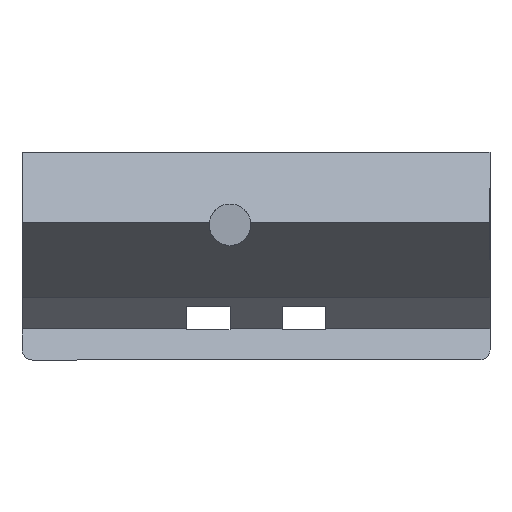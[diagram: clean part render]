
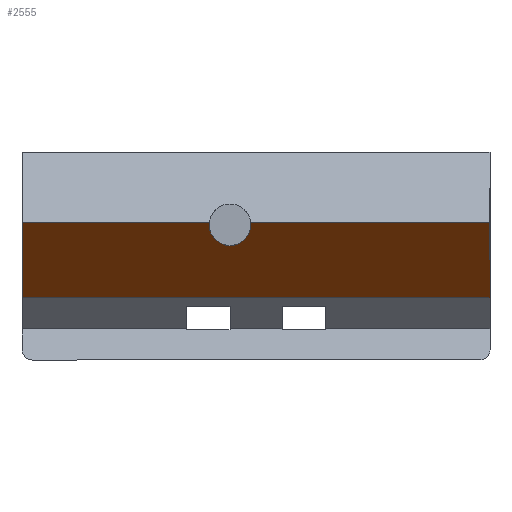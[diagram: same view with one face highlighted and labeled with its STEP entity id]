
A CAD part, left-side view. The second image highlights one B-rep face of the part: STEP entity #2555.
In plain terms, the highlighted planar face has unit normal (-0.633, 0, -0.774).
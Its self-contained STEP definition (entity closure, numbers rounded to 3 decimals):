
#44 = PLANE('',#45);
#45 = AXIS2_PLACEMENT_3D('',#46,#47,#48);
#46 = CARTESIAN_POINT('',(0.,0.,9.931));
#47 = DIRECTION('',(-0.,-1.,0.));
#48 = DIRECTION('',(0.,0.,-1.));
#158 = PLANE('',#159);
#159 = AXIS2_PLACEMENT_3D('',#160,#161,#162);
#160 = CARTESIAN_POINT('',(0.,-45.,9.931));
#161 = DIRECTION('',(-0.,-1.,0.));
#162 = DIRECTION('',(0.,0.,-1.));
#184 = PLANE('',#185);
#185 = AXIS2_PLACEMENT_3D('',#186,#187,#188);
#186 = CARTESIAN_POINT('',(-7.681,0.,23.61));
#187 = DIRECTION('',(0.774,0.,-0.633));
#188 = DIRECTION('',(-0.633,0.,-0.774));
#564 = VERTEX_POINT('',#565);
#565 = CARTESIAN_POINT('',(-16.173,0.,13.216));
#586 = EDGE_CURVE('',#564,#587,#589,.T.);
#587 = VERTEX_POINT('',#588);
#588 = CARTESIAN_POINT('',(-7.34,0.,6.));
#589 = SURFACE_CURVE('',#590,(#594,#601),.PCURVE_S1.);
#590 = LINE('',#591,#592);
#591 = CARTESIAN_POINT('',(-16.173,0.,13.216));
#592 = VECTOR('',#593,1.);
#593 = DIRECTION('',(0.774,0.,-0.633));
#594 = PCURVE('',#44,#595);
#595 = DEFINITIONAL_REPRESENTATION('',(#596),#600);
#596 = LINE('',#597,#598);
#597 = CARTESIAN_POINT('',(-3.285,-16.173));
#598 = VECTOR('',#599,1.);
#599 = DIRECTION('',(0.633,0.774));
#600 = ( GEOMETRIC_REPRESENTATION_CONTEXT(2) 
PARAMETRIC_REPRESENTATION_CONTEXT() REPRESENTATION_CONTEXT('2D SPACE',''
  ) );
#601 = PCURVE('',#602,#607);
#602 = PLANE('',#603);
#603 = AXIS2_PLACEMENT_3D('',#604,#605,#606);
#604 = CARTESIAN_POINT('',(-16.173,0.,13.216));
#605 = DIRECTION('',(0.633,0.,0.774));
#606 = DIRECTION('',(0.774,0.,-0.633));
#607 = DEFINITIONAL_REPRESENTATION('',(#608),#612);
#608 = LINE('',#609,#610);
#609 = CARTESIAN_POINT('',(0.,0.));
#610 = VECTOR('',#611,1.);
#611 = DIRECTION('',(1.,0.));
#612 = ( GEOMETRIC_REPRESENTATION_CONTEXT(2) 
PARAMETRIC_REPRESENTATION_CONTEXT() REPRESENTATION_CONTEXT('2D SPACE',''
  ) );
#630 = PLANE('',#631);
#631 = AXIS2_PLACEMENT_3D('',#632,#633,#634);
#632 = CARTESIAN_POINT('',(-9.,0.,6.));
#633 = DIRECTION('',(0.,0.,1.));
#634 = DIRECTION('',(1.,0.,0.));
#820 = VERTEX_POINT('',#821);
#821 = CARTESIAN_POINT('',(-16.173,-45.,13.216));
#842 = EDGE_CURVE('',#843,#820,#845,.T.);
#843 = VERTEX_POINT('',#844);
#844 = CARTESIAN_POINT('',(-16.173,-21.988,
    13.216));
#845 = SURFACE_CURVE('',#846,(#850,#857),.PCURVE_S1.);
#846 = LINE('',#847,#848);
#847 = CARTESIAN_POINT('',(-16.173,0.,13.216));
#848 = VECTOR('',#849,1.);
#849 = DIRECTION('',(0.,-1.,0.));
#850 = PCURVE('',#184,#851);
#851 = DEFINITIONAL_REPRESENTATION('',(#852),#856);
#852 = LINE('',#853,#854);
#853 = CARTESIAN_POINT('',(13.422,0.));
#854 = VECTOR('',#855,1.);
#855 = DIRECTION('',(0.,-1.));
#856 = ( GEOMETRIC_REPRESENTATION_CONTEXT(2) 
PARAMETRIC_REPRESENTATION_CONTEXT() REPRESENTATION_CONTEXT('2D SPACE',''
  ) );
#857 = PCURVE('',#602,#858);
#858 = DEFINITIONAL_REPRESENTATION('',(#859),#863);
#859 = LINE('',#860,#861);
#860 = CARTESIAN_POINT('',(0.,0.));
#861 = VECTOR('',#862,1.);
#862 = DIRECTION('',(0.,-1.));
#863 = ( GEOMETRIC_REPRESENTATION_CONTEXT(2) 
PARAMETRIC_REPRESENTATION_CONTEXT() REPRESENTATION_CONTEXT('2D SPACE',''
  ) );
#866 = VERTEX_POINT('',#867);
#867 = CARTESIAN_POINT('',(-16.173,-18.012,
    13.216));
#882 = CYLINDRICAL_SURFACE('',#883,2.);
#883 = AXIS2_PLACEMENT_3D('',#884,#885,#886);
#884 = CARTESIAN_POINT('',(-25.,-20.,13.));
#885 = DIRECTION('',(-1.,0.,0.));
#886 = DIRECTION('',(0.,0.,-1.));
#902 = EDGE_CURVE('',#564,#866,#903,.T.);
#903 = SURFACE_CURVE('',#904,(#908,#915),.PCURVE_S1.);
#904 = LINE('',#905,#906);
#905 = CARTESIAN_POINT('',(-16.173,0.,13.216));
#906 = VECTOR('',#907,1.);
#907 = DIRECTION('',(0.,-1.,0.));
#908 = PCURVE('',#184,#909);
#909 = DEFINITIONAL_REPRESENTATION('',(#910),#914);
#910 = LINE('',#911,#912);
#911 = CARTESIAN_POINT('',(13.422,0.));
#912 = VECTOR('',#913,1.);
#913 = DIRECTION('',(0.,-1.));
#914 = ( GEOMETRIC_REPRESENTATION_CONTEXT(2) 
PARAMETRIC_REPRESENTATION_CONTEXT() REPRESENTATION_CONTEXT('2D SPACE',''
  ) );
#915 = PCURVE('',#602,#916);
#916 = DEFINITIONAL_REPRESENTATION('',(#917),#921);
#917 = LINE('',#918,#919);
#918 = CARTESIAN_POINT('',(0.,0.));
#919 = VECTOR('',#920,1.);
#920 = DIRECTION('',(0.,-1.));
#921 = ( GEOMETRIC_REPRESENTATION_CONTEXT(2) 
PARAMETRIC_REPRESENTATION_CONTEXT() REPRESENTATION_CONTEXT('2D SPACE',''
  ) );
#1210 = EDGE_CURVE('',#1211,#820,#1213,.T.);
#1211 = VERTEX_POINT('',#1212);
#1212 = CARTESIAN_POINT('',(-7.34,-45.,6.));
#1213 = SURFACE_CURVE('',#1214,(#1218,#1225),.PCURVE_S1.);
#1214 = LINE('',#1215,#1216);
#1215 = CARTESIAN_POINT('',(-10.518,-45.,8.597));
#1216 = VECTOR('',#1217,1.);
#1217 = DIRECTION('',(-0.774,0.,0.633));
#1218 = PCURVE('',#158,#1219);
#1219 = DEFINITIONAL_REPRESENTATION('',(#1220),#1224);
#1220 = LINE('',#1221,#1222);
#1221 = CARTESIAN_POINT('',(1.335,-10.518));
#1222 = VECTOR('',#1223,1.);
#1223 = DIRECTION('',(-0.633,-0.774));
#1224 = ( GEOMETRIC_REPRESENTATION_CONTEXT(2) 
PARAMETRIC_REPRESENTATION_CONTEXT() REPRESENTATION_CONTEXT('2D SPACE',''
  ) );
#1225 = PCURVE('',#602,#1226);
#1226 = DEFINITIONAL_REPRESENTATION('',(#1227),#1231);
#1227 = LINE('',#1228,#1229);
#1228 = CARTESIAN_POINT('',(7.301,-45.));
#1229 = VECTOR('',#1230,1.);
#1230 = DIRECTION('',(-1.,0.));
#1231 = ( GEOMETRIC_REPRESENTATION_CONTEXT(2) 
PARAMETRIC_REPRESENTATION_CONTEXT() REPRESENTATION_CONTEXT('2D SPACE',''
  ) );
#2533 = EDGE_CURVE('',#1211,#587,#2534,.T.);
#2534 = SURFACE_CURVE('',#2535,(#2539,#2546),.PCURVE_S1.);
#2535 = LINE('',#2536,#2537);
#2536 = CARTESIAN_POINT('',(-7.34,0.,6.));
#2537 = VECTOR('',#2538,1.);
#2538 = DIRECTION('',(0.,1.,0.));
#2539 = PCURVE('',#630,#2540);
#2540 = DEFINITIONAL_REPRESENTATION('',(#2541),#2545);
#2541 = LINE('',#2542,#2543);
#2542 = CARTESIAN_POINT('',(1.66,0.));
#2543 = VECTOR('',#2544,1.);
#2544 = DIRECTION('',(0.,1.));
#2545 = ( GEOMETRIC_REPRESENTATION_CONTEXT(2) 
PARAMETRIC_REPRESENTATION_CONTEXT() REPRESENTATION_CONTEXT('2D SPACE',''
  ) );
#2546 = PCURVE('',#602,#2547);
#2547 = DEFINITIONAL_REPRESENTATION('',(#2548),#2552);
#2548 = LINE('',#2549,#2550);
#2549 = CARTESIAN_POINT('',(11.406,0.));
#2550 = VECTOR('',#2551,1.);
#2551 = DIRECTION('',(0.,1.));
#2552 = ( GEOMETRIC_REPRESENTATION_CONTEXT(2) 
PARAMETRIC_REPRESENTATION_CONTEXT() REPRESENTATION_CONTEXT('2D SPACE',''
  ) );
#2555 = ADVANCED_FACE('',(#2556),#602,.F.);
#2556 = FACE_BOUND('',#2557,.F.);
#2557 = EDGE_LOOP('',(#2558,#2559,#2560,#2591,#2620,#2621,#2622));
#2558 = ORIENTED_EDGE('',*,*,#586,.F.);
#2559 = ORIENTED_EDGE('',*,*,#902,.T.);
#2560 = ORIENTED_EDGE('',*,*,#2561,.F.);
#2561 = EDGE_CURVE('',#2562,#866,#2564,.T.);
#2562 = VERTEX_POINT('',#2563);
#2563 = CARTESIAN_POINT('',(-13.46,-20.,11.));
#2564 = SURFACE_CURVE('',#2565,(#2570,#2577),.PCURVE_S1.);
#2565 = ELLIPSE('',#2566,3.161,2.);
#2566 = AXIS2_PLACEMENT_3D('',#2567,#2568,#2569);
#2567 = CARTESIAN_POINT('',(-15.909,-20.,13.));
#2568 = DIRECTION('',(0.633,0.,0.774));
#2569 = DIRECTION('',(-0.774,0.,0.633
    ));
#2570 = PCURVE('',#602,#2571);
#2571 = DEFINITIONAL_REPRESENTATION('',(#2572),#2576);
#2572 = ELLIPSE('',#2573,3.161,2.);
#2573 = AXIS2_PLACEMENT_2D('',#2574,#2575);
#2574 = CARTESIAN_POINT('',(0.341,-20.));
#2575 = DIRECTION('',(-1.,0.));
#2576 = ( GEOMETRIC_REPRESENTATION_CONTEXT(2) 
PARAMETRIC_REPRESENTATION_CONTEXT() REPRESENTATION_CONTEXT('2D SPACE',''
  ) );
#2577 = PCURVE('',#882,#2578);
#2578 = DEFINITIONAL_REPRESENTATION('',(#2579),#2590);
#2579 = B_SPLINE_CURVE_WITH_KNOTS('',9,(#2580,#2581,#2582,#2583,#2584,
    #2585,#2586,#2587,#2588,#2589),.UNSPECIFIED.,.F.,.F.,(10,10),(
    3.142,5.589),.PIECEWISE_BEZIER_KNOTS.);
#2580 = CARTESIAN_POINT('',(6.283,-11.54));
#2581 = CARTESIAN_POINT('',(6.011,-11.54));
#2582 = CARTESIAN_POINT('',(5.739,-11.336));
#2583 = CARTESIAN_POINT('',(5.467,-10.929));
#2584 = CARTESIAN_POINT('',(5.196,-10.347));
#2585 = CARTESIAN_POINT('',(4.924,-9.648));
#2586 = CARTESIAN_POINT('',(4.652,-8.912));
#2587 = CARTESIAN_POINT('',(4.38,-8.218));
#2588 = CARTESIAN_POINT('',(4.108,-7.636));
#2589 = CARTESIAN_POINT('',(3.836,-7.21));
#2590 = ( GEOMETRIC_REPRESENTATION_CONTEXT(2) 
PARAMETRIC_REPRESENTATION_CONTEXT() REPRESENTATION_CONTEXT('2D SPACE',''
  ) );
#2591 = ORIENTED_EDGE('',*,*,#2592,.F.);
#2592 = EDGE_CURVE('',#843,#2562,#2593,.T.);
#2593 = SURFACE_CURVE('',#2594,(#2599,#2606),.PCURVE_S1.);
#2594 = ELLIPSE('',#2595,3.161,2.);
#2595 = AXIS2_PLACEMENT_3D('',#2596,#2597,#2598);
#2596 = CARTESIAN_POINT('',(-15.909,-20.,13.));
#2597 = DIRECTION('',(0.633,0.,0.774));
#2598 = DIRECTION('',(-0.774,0.,0.633
    ));
#2599 = PCURVE('',#602,#2600);
#2600 = DEFINITIONAL_REPRESENTATION('',(#2601),#2605);
#2601 = ELLIPSE('',#2602,3.161,2.);
#2602 = AXIS2_PLACEMENT_2D('',#2603,#2604);
#2603 = CARTESIAN_POINT('',(0.341,-20.));
#2604 = DIRECTION('',(-1.,0.));
#2605 = ( GEOMETRIC_REPRESENTATION_CONTEXT(2) 
PARAMETRIC_REPRESENTATION_CONTEXT() REPRESENTATION_CONTEXT('2D SPACE',''
  ) );
#2606 = PCURVE('',#882,#2607);
#2607 = DEFINITIONAL_REPRESENTATION('',(#2608),#2619);
#2608 = B_SPLINE_CURVE_WITH_KNOTS('',9,(#2609,#2610,#2611,#2612,#2613,
    #2614,#2615,#2616,#2617,#2618),.UNSPECIFIED.,.F.,.F.,(10,10),(
    0.694,3.142),.PIECEWISE_BEZIER_KNOTS.);
#2609 = CARTESIAN_POINT('',(2.447,-7.21));
#2610 = CARTESIAN_POINT('',(2.175,-7.636));
#2611 = CARTESIAN_POINT('',(1.903,-8.218));
#2612 = CARTESIAN_POINT('',(1.632,-8.912));
#2613 = CARTESIAN_POINT('',(1.36,-9.648));
#2614 = CARTESIAN_POINT('',(1.088,-10.347));
#2615 = CARTESIAN_POINT('',(0.816,-10.929));
#2616 = CARTESIAN_POINT('',(0.544,-11.336));
#2617 = CARTESIAN_POINT('',(0.272,-11.54));
#2618 = CARTESIAN_POINT('',(0.,-11.54));
#2619 = ( GEOMETRIC_REPRESENTATION_CONTEXT(2) 
PARAMETRIC_REPRESENTATION_CONTEXT() REPRESENTATION_CONTEXT('2D SPACE',''
  ) );
#2620 = ORIENTED_EDGE('',*,*,#842,.T.);
#2621 = ORIENTED_EDGE('',*,*,#1210,.F.);
#2622 = ORIENTED_EDGE('',*,*,#2533,.T.);
